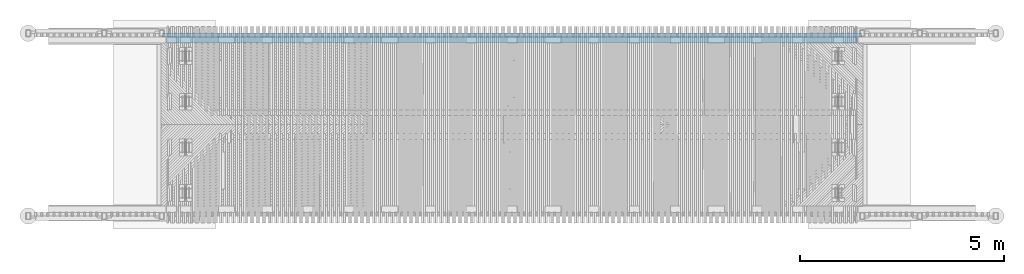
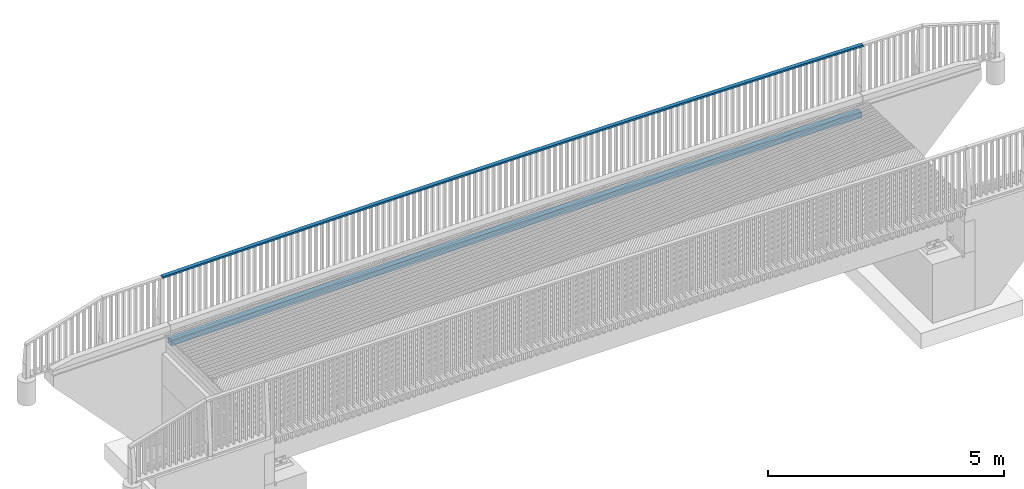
# One storey, part 35 of 47: 2 beams.
"""IFC2X3 building model written with IfcOpenShell, lengths in millimetres."""

from ifc_helpers import new_model, si_unit, frame, origin_with_axes, place, context, subcontext, project, spatial, faceted_brep, material, type_object, element, save


model = new_model("IFC2X3")

# Units and contexts
model_context = context("Model", 3, precision=1e-05, world=origin_with_axes())
body_context = subcontext(model_context, "Body", "Model", "MODEL_VIEW")
ifc_project = project(units=[si_unit("LENGTHUNIT", "METRE", prefix="MILLI"), si_unit("AREAUNIT", "SQUARE_METRE"), si_unit("VOLUMEUNIT", "CUBIC_METRE"), si_unit("MASSUNIT", "GRAM", prefix="KILO"), si_unit("TIMEUNIT", "SECOND"), si_unit("PLANEANGLEUNIT", "RADIAN"), si_unit("SOLIDANGLEUNIT", "STERADIAN"), si_unit("THERMODYNAMICTEMPERATUREUNIT", "DEGREE_CELSIUS"), si_unit("LUMINOUSINTENSITYUNIT", "LUMEN")], contexts=[model_context])

# Site, building, storey
site_placement = place(None, origin_with_axes())
site = spatial("IfcSite", under=ifc_project, at=site_placement, Name="Undefined", CompositionType="ELEMENT")
building_placement = place(site_placement, origin_with_axes())
building = spatial("IfcBuilding", under=site, at=building_placement, Name="Undefined", CompositionType="ELEMENT")
storey_placement = place(building_placement, origin_with_axes())
storey = spatial("IfcBuildingStorey", under=building, at=storey_placement, Name="Undefined", CompositionType="ELEMENT", Elevation=0.0)

# Beams
ifc_material = material(Name="TIMBER/Timber_Undefined")
beam_type_1 = type_object("IfcBeamType", Name="95*45", PredefinedType="NOTDEFINED")
beam_1_placement = place(storey_placement, frame((-2047.37477855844, 64562.487908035, 4507.13687854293), z_axis=(0.0, 1.0, 0.0), x_axis=(1.0, 0.0, 0.0)))
element("IfcBeam", 1, at=beam_1_placement, inside=storey, type_object=beam_type_1, material=ifc_material, Name="YLÄJOHDE", ObjectType="95*45", context=body_context, shape_type="Brep", body=[
    faceted_brep([(1607.15024844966, -47.1338297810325, -47.5), (1607.15024844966, -47.1338297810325, 47.5), (1470.37516889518, -45.1743421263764, 47.5), (1470.37516889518, -45.1743421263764, -47.5), (1607.77987788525, -2.13823481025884, 47.5), (1607.77987788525, -2.13823481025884, -47.5), (1470.37516880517, -0.169726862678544, -47.5), (1470.37516880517, -0.169726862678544, 47.5), (2009.64096669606, -7.62762641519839, -47.5), (2009.04131779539, -52.6236309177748, -47.5), (2009.04131779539, -52.6236309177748, 47.5), (2009.64096669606, -7.62762641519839, 47.5), (2411.50562386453, -12.849258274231, 47.5), (2411.50562386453, -12.849258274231, -47.5), (2410.935955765, -57.845652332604, -47.5), (2410.935955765, -57.845652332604, 47.5), (2812.83398393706, -62.7998917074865, 47.5), (2813.37367098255, -17.8031280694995, 47.5), (2813.37367098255, -17.8031280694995, -47.5), (2812.83398393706, -62.7998917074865, -47.5), (3214.73522388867, -67.4863468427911, -47.5), (3214.73522388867, -67.4863468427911, 47.5), (3215.24492964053, -22.4892336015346, 47.5), (3215.24492964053, -22.4892336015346, -47.5), (3617.11922142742, -26.9075727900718, -47.5), (3616.63949719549, -71.9050156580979, -47.5), (3616.63949719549, -71.9050156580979, 47.5), (3617.11922142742, -26.9075727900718, 47.5), (4018.99636793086, -31.0581436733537, 47.5), (4018.99636793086, -31.0581436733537, -47.5), (4018.54662543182, -76.0558961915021, -47.5), (4018.54662543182, -76.0558961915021, 47.5), (4420.45643017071, -79.9389866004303, 47.5), (4420.87619073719, -34.9409444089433, 47.5), (4420.87619073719, -34.9409444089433, -47.5), (4420.45643017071, -79.9389866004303, -47.5), (4822.36873298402, -83.5542851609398, -47.5), (4822.36873298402, -83.5542851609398, 47.5), (4822.75851143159, -38.555973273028, 47.5), (4822.75851143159, -38.555973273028, -47.5), (5224.64315159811, -41.903228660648, -47.5), (5224.2833554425, -86.9017902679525, -47.5), (5224.2833554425, -86.9017902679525, 47.5), (5224.64315159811, -41.903228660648, 47.5), (5626.52993281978, -44.982709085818, 47.5), (5626.52993281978, -44.982709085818, -47.5), (5626.20011911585, -89.9815004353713, -47.5), (5626.20011911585, -89.9815004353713, 47.5), (6028.11884557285, -92.7934142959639, 47.5), (6028.41867667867, -47.7944131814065, 47.5), (6028.41867667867, -47.7944131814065, -47.5), (6028.11884557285, -92.7934142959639, -47.5), (6430.0393563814, -95.3375306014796, -47.5), (6430.0393563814, -95.3375306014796, 47.5), (6430.309204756, -50.3383396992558, 47.5), (6430.309204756, -50.3383396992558, -47.5), (6832.20133863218, -52.6144875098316, -47.5), (6831.96147310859, -97.6138482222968, -47.5), (6831.96147310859, -97.6138482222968, 47.5), (6832.20133863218, -52.6144875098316, 47.5), (7234.09489988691, -54.6228556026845, 47.5), (7234.09489988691, -54.6228556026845, -47.5), (7233.88501732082, -99.6223661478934, -47.5), (7233.88501732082, -99.6223661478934, 47.5), (7635.80981058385, -101.363083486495, 47.5), (7635.98971009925, -56.3634430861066, 47.5), (7635.98971009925, -56.3634430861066, -47.5), (7635.80981058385, -101.363083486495, -47.5), (8037.73567446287, -102.835999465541, -47.5), (8037.73567446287, -102.835999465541, 47.5), (8037.88559084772, -57.8362491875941, 47.5), (8037.88559084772, -57.8362491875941, -47.5), (8439.78236371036, -59.0412732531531, -47.5), (8439.66243052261, -104.041113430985, -47.5), (8439.66243052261, -104.041113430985, 47.5), (8439.78236371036, -59.0412732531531, 47.5), (8841.67985026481, -59.9785147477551, 47.5), (8841.67985026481, -59.9785147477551, -47.5), (8841.5899003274, -104.978424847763, -47.5), (8841.5899003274, -104.978424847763, 47.5), (9243.51790544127, -105.647933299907, 47.5), (9243.57787208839, -60.6479732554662, 47.5), (9243.57787208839, -60.6479732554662, -47.5), (9243.51790544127, -105.647933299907, -47.5), (9645.44626742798, -106.049638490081, -47.5), (9645.44626742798, -106.049638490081, 47.5), (9645.47625075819, -61.0496484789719, 47.5), (9645.47625075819, -61.0496484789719, -47.5), (10047.3748078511, -61.1835402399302, -47.5), (10047.3748078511, -106.18354023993, -47.5), (10047.3748078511, -106.18354023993, 47.5), (10047.3748078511, -61.1835402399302, 47.5), (10449.2733649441, -61.0496484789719, 47.5), (10449.2733649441, -61.0496484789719, -47.5), (10449.3033482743, -106.049638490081, -47.5), (10449.3033482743, -106.049638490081, 47.5), (10851.231710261, -105.647933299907, 47.5), (10851.1717436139, -60.6479732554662, 47.5), (10851.1717436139, -60.6479732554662, -47.5), (10851.231710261, -105.647933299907, -47.5), (11253.1597153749, -104.978424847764, -47.5), (11253.1597153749, -104.978424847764, 47.5), (11253.0697654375, -59.978514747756, 47.5), (11253.0697654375, -59.978514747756, -47.5), (11654.9672519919, -59.0412732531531, -47.5), (11655.0871851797, -104.041113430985, -47.5), (11655.0871851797, -104.041113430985, 47.5), (11654.9672519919, -59.0412732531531, 47.5), (12056.8640248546, -57.8362491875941, 47.5), (12056.8640248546, -57.8362491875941, -47.5), (12057.0139412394, -102.835999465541, -47.5), (12057.0139412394, -102.835999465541, 47.5), (12458.9398051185, -101.363083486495, 47.5), (12458.7599056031, -56.3634430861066, 47.5), (12458.7599056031, -56.3634430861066, -47.5), (12458.9398051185, -101.363083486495, -47.5), (12860.8645983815, -99.6223661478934, -47.5), (12860.8645983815, -99.6223661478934, 47.5), (12860.6547158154, -54.6228556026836, 47.5), (12860.6547158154, -54.6228556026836, -47.5), (13262.5482770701, -52.6144875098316, -47.5), (13262.7881425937, -97.6138482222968, -47.5), (13262.7881425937, -97.6138482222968, 47.5), (13262.5482770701, -52.6144875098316, 47.5), (13664.4404109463, -50.3383396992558, 47.5), (13664.4404109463, -50.3383396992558, -47.5), (13664.7102593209, -95.3375306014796, -47.5), (13664.7102593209, -95.3375306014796, 47.5), (14066.6307701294, -92.7934142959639, 47.5), (14066.3309390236, -47.7944131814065, 47.5), (14066.3309390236, -47.7944131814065, -47.5), (14066.6307701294, -92.7934142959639, -47.5), (14468.5494965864, -89.9815004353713, -47.5), (14468.5494965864, -89.9815004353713, 47.5), (14468.2196828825, -44.9827090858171, 47.5), (14468.2196828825, -44.9827090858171, -47.5), (14870.1064641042, -41.903228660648, -47.5), (14870.4662602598, -86.9017902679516, -47.5), (14870.4662602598, -86.9017902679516, 47.5), (14870.1064641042, -41.903228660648, 47.5), (15271.9911042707, -38.555973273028, 47.5), (15271.9911042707, -38.555973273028, -47.5), (15272.3808827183, -83.5542851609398, -47.5), (15272.3808827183, -83.5542851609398, 47.5), (15674.2931855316, -79.9389866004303, 47.5), (15673.8734249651, -34.9409444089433, 47.5), (15673.8734249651, -34.9409444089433, -47.5), (15674.2931855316, -79.9389866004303, -47.5), (16076.2029902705, -76.0558961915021, -47.5), (16076.2029902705, -76.0558961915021, 47.5), (16075.7532477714, -31.0581436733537, 47.5), (16075.7532477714, -31.0581436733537, -47.5), (16477.6303942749, -26.9075727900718, -47.5), (16478.1101185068, -71.9050156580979, -47.5), (16478.1101185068, -71.9050156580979, 47.5), (16477.6303942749, -26.9075727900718, 47.5), (16879.5046860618, -22.4892336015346, 47.5), (16879.5046860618, -22.4892336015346, -47.5), (16880.0143918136, -67.4863468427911, -47.5), (16880.0143918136, -67.4863468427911, 47.5), (17281.9156317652, -62.7998917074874, 47.5), (17281.3759447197, -17.8031280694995, 47.5), (17281.3759447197, -17.8031280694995, -47.5), (17281.9156317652, -62.7998917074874, -47.5), (17683.8136599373, -57.845652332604, -47.5), (17683.8136599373, -57.845652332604, 47.5), (17683.2439918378, -12.849258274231, 47.5), (17683.2439918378, -12.849258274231, -47.5), (18085.1086490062, -7.62762641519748, -47.5), (18085.7082979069, -52.6236309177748, -47.5), (18085.7082979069, -52.6236309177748, 47.5), (18085.1086490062, -7.62762641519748, 47.5), (18486.969737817, -2.13823481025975, 47.5), (18486.969737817, -2.13823481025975, -47.5), (18487.5993672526, -47.1338297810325, -47.5), (18487.5993672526, -47.1338297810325, 47.5), (18624.3743884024, -45.1743429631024, 47.5), (18624.3743883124, -0.169727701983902, 47.5), (18624.3743883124, -0.169727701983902, -47.5), (18624.3743884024, -45.1743429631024, -47.5)], [[[0, 1, 2, 3]], [[4, 5, 6, 7]], [[1, 4, 7, 2]], [[6, 3, 2, 7]], [[5, 0, 3, 6]], [[0, 5, 8, 9]], [[1, 0, 9, 10]], [[4, 1, 10, 11]], [[5, 4, 11, 8]], [[8, 11, 12, 13]], [[9, 8, 13, 14]], [[10, 9, 14, 15]], [[11, 10, 15, 12]], [[12, 15, 16, 17]], [[13, 12, 17, 18]], [[14, 13, 18, 19]], [[15, 14, 19, 16]], [[16, 19, 20, 21]], [[17, 16, 21, 22]], [[18, 17, 22, 23]], [[19, 18, 23, 20]], [[20, 23, 24, 25]], [[21, 20, 25, 26]], [[22, 21, 26, 27]], [[23, 22, 27, 24]], [[24, 27, 28, 29]], [[25, 24, 29, 30]], [[26, 25, 30, 31]], [[27, 26, 31, 28]], [[28, 31, 32, 33]], [[29, 28, 33, 34]], [[30, 29, 34, 35]], [[31, 30, 35, 32]], [[32, 35, 36, 37]], [[33, 32, 37, 38]], [[34, 33, 38, 39]], [[35, 34, 39, 36]], [[36, 39, 40, 41]], [[37, 36, 41, 42]], [[38, 37, 42, 43]], [[39, 38, 43, 40]], [[40, 43, 44, 45]], [[41, 40, 45, 46]], [[42, 41, 46, 47]], [[43, 42, 47, 44]], [[44, 47, 48, 49]], [[45, 44, 49, 50]], [[46, 45, 50, 51]], [[47, 46, 51, 48]], [[48, 51, 52, 53]], [[49, 48, 53, 54]], [[50, 49, 54, 55]], [[51, 50, 55, 52]], [[52, 55, 56, 57]], [[53, 52, 57, 58]], [[54, 53, 58, 59]], [[55, 54, 59, 56]], [[56, 59, 60, 61]], [[57, 56, 61, 62]], [[58, 57, 62, 63]], [[59, 58, 63, 60]], [[60, 63, 64, 65]], [[61, 60, 65, 66]], [[62, 61, 66, 67]], [[63, 62, 67, 64]], [[64, 67, 68, 69]], [[65, 64, 69, 70]], [[66, 65, 70, 71]], [[67, 66, 71, 68]], [[68, 71, 72, 73]], [[69, 68, 73, 74]], [[70, 69, 74, 75]], [[71, 70, 75, 72]], [[72, 75, 76, 77]], [[73, 72, 77, 78]], [[74, 73, 78, 79]], [[75, 74, 79, 76]], [[76, 79, 80, 81]], [[77, 76, 81, 82]], [[78, 77, 82, 83]], [[79, 78, 83, 80]], [[80, 83, 84, 85]], [[81, 80, 85, 86]], [[82, 81, 86, 87]], [[83, 82, 87, 84]], [[84, 87, 88, 89]], [[85, 84, 89, 90]], [[86, 85, 90, 91]], [[87, 86, 91, 88]], [[88, 91, 92, 93]], [[89, 88, 93, 94]], [[90, 89, 94, 95]], [[91, 90, 95, 92]], [[92, 95, 96, 97]], [[93, 92, 97, 98]], [[94, 93, 98, 99]], [[95, 94, 99, 96]], [[96, 99, 100, 101]], [[97, 96, 101, 102]], [[98, 97, 102, 103]], [[99, 98, 103, 100]], [[100, 103, 104, 105]], [[101, 100, 105, 106]], [[102, 101, 106, 107]], [[103, 102, 107, 104]], [[104, 107, 108, 109]], [[105, 104, 109, 110]], [[106, 105, 110, 111]], [[107, 106, 111, 108]], [[108, 111, 112, 113]], [[109, 108, 113, 114]], [[110, 109, 114, 115]], [[111, 110, 115, 112]], [[112, 115, 116, 117]], [[113, 112, 117, 118]], [[114, 113, 118, 119]], [[115, 114, 119, 116]], [[116, 119, 120, 121]], [[117, 116, 121, 122]], [[118, 117, 122, 123]], [[119, 118, 123, 120]], [[120, 123, 124, 125]], [[121, 120, 125, 126]], [[122, 121, 126, 127]], [[123, 122, 127, 124]], [[124, 127, 128, 129]], [[125, 124, 129, 130]], [[126, 125, 130, 131]], [[127, 126, 131, 128]], [[128, 131, 132, 133]], [[129, 128, 133, 134]], [[130, 129, 134, 135]], [[131, 130, 135, 132]], [[132, 135, 136, 137]], [[133, 132, 137, 138]], [[134, 133, 138, 139]], [[135, 134, 139, 136]], [[136, 139, 140, 141]], [[137, 136, 141, 142]], [[138, 137, 142, 143]], [[139, 138, 143, 140]], [[140, 143, 144, 145]], [[141, 140, 145, 146]], [[142, 141, 146, 147]], [[143, 142, 147, 144]], [[144, 147, 148, 149]], [[145, 144, 149, 150]], [[146, 145, 150, 151]], [[147, 146, 151, 148]], [[148, 151, 152, 153]], [[149, 148, 153, 154]], [[150, 149, 154, 155]], [[151, 150, 155, 152]], [[152, 155, 156, 157]], [[153, 152, 157, 158]], [[154, 153, 158, 159]], [[155, 154, 159, 156]], [[156, 159, 160, 161]], [[157, 156, 161, 162]], [[158, 157, 162, 163]], [[159, 158, 163, 160]], [[160, 163, 164, 165]], [[161, 160, 165, 166]], [[162, 161, 166, 167]], [[163, 162, 167, 164]], [[164, 167, 168, 169]], [[165, 164, 169, 170]], [[166, 165, 170, 171]], [[167, 166, 171, 168]], [[168, 171, 172, 173]], [[169, 168, 173, 174]], [[170, 169, 174, 175]], [[171, 170, 175, 172]], [[172, 175, 176, 177]], [[173, 172, 177, 178]], [[174, 173, 178, 179]], [[175, 174, 179, 176]], [[178, 177, 176, 179]]]),
])
beam_type_2 = type_object("IfcBeamType", Name="150*150", PredefinedType="NOTDEFINED")
beam_2_placement = place(storey_placement, frame((-101.638019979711, 64439.9950922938, 2888.62561019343), z_axis=(0.0, 1.0, 0.0), x_axis=(1.0, 0.0, 0.0)))
element("IfcBeam", 2, at=beam_2_placement, inside=storey, type_object=beam_type_2, material=ifc_material, Name="PALKKI", ObjectType="150*150", context=body_context, shape_type="Brep", body=[
    faceted_brep([(-322.982711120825, 79.4552193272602, -75.0), (-325.088810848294, -70.5299944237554, -75.0), (-347.67957067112, -70.2066726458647, -75.0), (-348.53030407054, 79.8208596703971, -75.0), (-325.088810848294, -70.5299944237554, 75.0), (-347.67957067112, -70.2066726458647, 75.0), (-322.982711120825, 79.4552193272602, 75.0), (-348.53030407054, 79.8208596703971, 75.0), (1.01255045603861, 74.9931646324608, 75.0), (1.01255045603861, 74.9931646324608, -75.0), (-1.01255045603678, -74.9931646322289, -75.0), (-1.01255045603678, -74.9931646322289, 75.0), (323.066072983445, -79.2813189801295, 75.0), (325.010174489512, 70.7060820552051, 75.0), (325.010174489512, 70.7060820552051, -75.0), (323.066072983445, -79.2813189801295, -75.0), (647.146964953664, -83.3944562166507, -75.0), (647.146964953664, -83.3944562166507, 75.0), (649.010066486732, 66.5939728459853, 75.0), (649.010066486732, 66.5939728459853, -75.0), (973.012131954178, 62.6568382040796, -75.0), (971.230030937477, -87.3325751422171, -75.0), (971.230030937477, -87.3325751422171, 75.0), (973.012131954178, 62.6568382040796, 75.0), (1297.01627639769, 58.8946792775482, 75.0), (1297.01627639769, 58.8946792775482, -75.0), (1295.3151764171, -91.0956746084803, -75.0), (1295.3151764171, -91.0956746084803, 75.0), (1619.40230687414, -94.6837535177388, 75.0), (1621.0224053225, 55.3074971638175, 75.0), (1621.0224053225, 55.3074971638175, -75.0), (1619.40230687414, -94.6837535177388, -75.0), (1943.49132778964, -98.096810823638, -75.0), (1943.49132778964, -98.096810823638, 75.0), (1945.03042423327, 51.8952929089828, 75.0), (1945.03042423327, 51.8952929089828, -75.0), (2269.04023863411, 48.6580675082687, -75.0), (2267.58214464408, -101.334845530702, -75.0), (2267.58214464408, -101.334845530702, 75.0), (2269.04023863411, 48.6580675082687, 75.0), (2593.05175402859, 45.5958219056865, 75.0), (2593.05175402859, 45.5958219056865, -75.0), (2591.67466291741, -104.397856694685, -75.0), (2591.67466291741, -104.397856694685, 75.0), (2915.7687880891, -107.285843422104, 75.0), (2917.06487591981, 42.7085569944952, 75.0), (2917.06487591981, 42.7085569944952, -75.0), (2915.7687880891, -107.285843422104, -75.0), (3239.86442563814, -109.998804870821, -75.0), (3239.86442563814, -109.998804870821, 75.0), (3241.07950981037, 39.9962736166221, 75.0), (3241.07950981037, 39.9962736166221, -75.0), (3565.09556120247, 37.4589725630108, -75.0), (3563.96148104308, -112.536740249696, -75.0), (3563.96148104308, -112.536740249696, 75.0), (3565.09556120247, 37.4589725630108, 75.0), (3889.11293559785, 35.0966545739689, 75.0), (3889.11293559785, 35.0966545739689, -75.0), (3888.05985978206, -114.899648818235, -75.0), (3888.05985978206, -114.899648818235, 75.0), (4212.15946733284, -117.087529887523, 75.0), (4213.1315384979, 32.9093203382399, 75.0), (4213.1315384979, 32.9093203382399, -75.0), (4212.15946733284, -117.087529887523, -75.0), (4536.2602091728, -119.100382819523, -75.0), (4536.2602091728, -119.100382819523, 75.0), (4537.15127540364, 30.8969704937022, 75.0), (4537.15127540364, 30.8969704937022, -75.0), (4861.17205181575, 29.0596056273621, -75.0), (4860.36199077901, -120.938207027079, -75.0), (4860.36199077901, -120.938207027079, 75.0), (4861.17205181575, 29.0596056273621, 75.0), (5185.19377323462, 27.3972262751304, 75.0), (5185.19377323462, 27.3972262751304, -75.0), (5184.46471762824, -122.601001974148, -75.0), (5184.46471762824, -122.601001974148, 75.0), (5508.56829519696, -124.088767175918, 75.0), (5509.21634516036, 25.9098329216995, 75.0), (5509.21634516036, 25.9098329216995, -75.0), (5508.56829519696, -124.088767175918, -75.0), (5832.67262896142, -125.401502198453, -75.0), (5832.67262896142, -125.401502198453, 75.0), (5833.23967309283, 24.5974260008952, 75.0), (5833.23967309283, 24.5974260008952, -75.0), (6157.26366253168, 23.4600058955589, -75.0), (6156.77762439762, -126.539206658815, -75.0), (6156.77762439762, -126.539206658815, 75.0), (6157.26366253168, 23.4600058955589, 75.0), (6481.28821897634, 22.4975729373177, 75.0), (6481.28821897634, 22.4975729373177, -75.0), (6480.88318698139, -127.501880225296, -75.0), (6480.88318698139, -127.501880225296, 75.0), (6804.9892221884, -128.289522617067, 75.0), (6805.3132479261, 21.7101274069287, 75.0), (6805.3132479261, 21.7101274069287, -75.0), (6804.9892221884, -128.289522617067, -75.0), (7129.09563549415, -128.902133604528, -75.0), (7129.09563549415, -128.902133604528, 75.0), (7129.33865488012, 21.0976695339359, 75.0), (7129.33865488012, 21.0976695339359, -75.0), (7453.36434533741, 20.6601994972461, -75.0), (7453.20233237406, -129.339713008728, -75.0), (7453.20233237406, -129.339713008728, 75.0), (7453.36434533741, 20.6601994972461, 75.0), (7777.39022479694, 20.3977174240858, 75.0), (7777.39022479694, 20.3977174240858, -75.0), (7777.30921830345, -129.602260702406, -75.0), (7777.30921830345, -129.602260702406, 75.0), (8101.4161987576, -129.689776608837, 75.0), (8101.4161987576, 20.3102233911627, 75.0), (8101.4161987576, 20.3102233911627, -75.0), (8101.4161987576, -129.689776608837, -75.0), (8425.52317921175, -129.602260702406, -75.0), (8425.52317921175, -129.602260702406, 75.0), (8425.44217271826, 20.3977174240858, 75.0), (8425.44217271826, 20.3977174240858, -75.0), (8749.46805217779, 20.6601994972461, -75.0), (8749.63006514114, -129.339713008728, -75.0), (8749.63006514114, -129.339713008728, 75.0), (8749.46805217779, 20.6601994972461, 75.0), (9073.49374263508, 21.0976695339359, 75.0), (9073.49374263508, 21.0976695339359, -75.0), (9073.73676202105, -128.902133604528, -75.0), (9073.73676202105, -128.902133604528, 75.0), (9397.8431753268, -128.289522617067, 75.0), (9397.5191495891, 21.7101274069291, 75.0), (9397.5191495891, 21.7101274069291, -75.0), (9397.8431753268, -128.289522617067, -75.0), (9721.94921053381, -127.501880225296, -75.0), (9721.94921053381, -127.501880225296, 75.0), (9721.54417853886, 22.4975729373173, 75.0), (9721.54417853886, 22.4975729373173, -75.0), (10045.5687349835, 23.4600058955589, -75.0), (10046.0547731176, -126.539206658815, -75.0), (10046.0547731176, -126.539206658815, 75.0), (10045.5687349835, 23.4600058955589, 75.0), (10369.5927244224, 24.5974260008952, 75.0), (10369.5927244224, 24.5974260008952, -75.0), (10370.1597685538, -125.401502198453, -75.0), (10370.1597685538, -125.401502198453, 75.0), (10694.2641023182, -124.088767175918, 75.0), (10693.6160523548, 25.9098329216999, 75.0), (10693.6160523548, 25.9098329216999, -75.0), (10694.2641023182, -124.088767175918, -75.0), (11018.367679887, -122.601001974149, -75.0), (11018.367679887, -122.601001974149, 75.0), (11017.6386242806, 27.3972262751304, 75.0), (11017.6386242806, 27.3972262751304, -75.0), (11341.6603456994, 29.0596056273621, -75.0), (11342.4704067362, -120.938207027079, -75.0), (11342.4704067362, -120.938207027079, 75.0), (11341.6603456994, 29.0596056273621, 75.0), (11665.6811221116, 30.8969704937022, 75.0), (11665.6811221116, 30.8969704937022, -75.0), (11666.5721883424, -119.100382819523, -75.0), (11666.5721883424, -119.100382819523, 75.0), (11990.6729301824, -117.087529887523, 75.0), (11989.7008590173, 32.9093203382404, 75.0), (11989.7008590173, 32.9093203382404, -75.0), (11990.6729301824, -117.087529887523, -75.0), (12314.7725377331, -114.899648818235, -75.0), (12314.7725377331, -114.899648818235, 75.0), (12313.7194619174, 35.0966545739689, 75.0), (12313.7194619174, 35.0966545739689, -75.0), (12637.7368363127, 37.4589725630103, -75.0), (12638.8709164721, -112.536740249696, -75.0), (12638.8709164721, -112.536740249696, 75.0), (12637.7368363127, 37.4589725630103, 75.0), (12961.7528877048, 39.9962736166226, 75.0), (12961.7528877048, 39.9962736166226, -75.0), (12962.9679718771, -109.998804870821, -75.0), (12962.9679718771, -109.998804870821, 75.0), (13287.0636094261, -107.285843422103, 75.0), (13285.7675215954, 42.7085569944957, 75.0), (13285.7675215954, 42.7085569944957, -75.0), (13287.0636094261, -107.285843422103, -75.0), (13611.1577345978, -104.397856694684, -75.0), (13611.1577345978, -104.397856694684, 75.0), (13609.7806434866, 45.595821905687, 75.0), (13609.7806434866, 45.595821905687, -75.0), (13933.7921588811, 48.6580675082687, -75.0), (13935.2502528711, -101.334845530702, -75.0), (13935.2502528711, -101.334845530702, 75.0), (13933.7921588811, 48.6580675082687, 75.0), (14257.8019732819, 51.8952929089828, 75.0), (14257.8019732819, 51.8952929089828, -75.0), (14259.3410697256, -98.096810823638, -75.0), (14259.3410697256, -98.096810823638, 75.0), (14583.4300906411, -94.6837535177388, 75.0), (14581.8099921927, 55.307497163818, 75.0), (14581.8099921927, 55.307497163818, -75.0), (14583.4300906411, -94.6837535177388, -75.0), (14907.5172210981, -91.0956746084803, -75.0), (14907.5172210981, -91.0956746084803, 75.0), (14905.8161211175, 58.8946792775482, 75.0), (14905.8161211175, 58.8946792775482, -75.0), (15229.820265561, 62.6568382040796, -75.0), (15231.6023665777, -87.3325751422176, -75.0), (15231.6023665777, -87.3325751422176, 75.0), (15229.820265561, 62.6568382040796, 75.0), (15553.8223310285, 66.5939728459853, 75.0), (15553.8223310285, 66.5939728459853, -75.0), (15555.6854325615, -83.3944562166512, -75.0), (15555.6854325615, -83.3944562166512, 75.0), (15879.7663245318, -79.2813189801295, 75.0), (15877.8222230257, 70.7060820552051, 75.0), (15877.8222230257, 70.7060820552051, -75.0), (15879.7663245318, -79.2813189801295, -75.0), (16203.8449479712, -74.9931646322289, -75.0), (16203.8449479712, -74.9931646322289, 75.0), (16201.8198470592, 74.9931646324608, 75.0), (16201.8198470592, 74.9931646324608, -75.0), (16513.3537972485, 79.2803664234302, -75.0), (16515.4567816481, -70.7048910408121, -75.0), (16515.4567816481, -70.7048910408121, 75.0), (16513.3537972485, 79.2803664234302, 75.0), (16551.7859798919, 79.8292149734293, 75.0), (16551.7859798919, 79.8292149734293, -75.0), (16550.9349976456, -70.1982279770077, -75.0), (16550.9349976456, -70.1982279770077, 75.0)], [[[0, 1, 2, 3]], [[1, 4, 5, 2]], [[4, 6, 7, 5]], [[3, 2, 5, 7]], [[6, 0, 3, 7]], [[0, 6, 8, 9]], [[1, 0, 9, 10]], [[4, 1, 10, 11]], [[6, 4, 11, 8]], [[8, 11, 12, 13]], [[9, 8, 13, 14]], [[10, 9, 14, 15]], [[11, 10, 15, 12]], [[12, 15, 16, 17]], [[13, 12, 17, 18]], [[14, 13, 18, 19]], [[15, 14, 19, 16]], [[16, 19, 20, 21]], [[17, 16, 21, 22]], [[18, 17, 22, 23]], [[19, 18, 23, 20]], [[20, 23, 24, 25]], [[21, 20, 25, 26]], [[22, 21, 26, 27]], [[23, 22, 27, 24]], [[24, 27, 28, 29]], [[25, 24, 29, 30]], [[26, 25, 30, 31]], [[27, 26, 31, 28]], [[28, 31, 32, 33]], [[29, 28, 33, 34]], [[30, 29, 34, 35]], [[31, 30, 35, 32]], [[32, 35, 36, 37]], [[33, 32, 37, 38]], [[34, 33, 38, 39]], [[35, 34, 39, 36]], [[36, 39, 40, 41]], [[37, 36, 41, 42]], [[38, 37, 42, 43]], [[39, 38, 43, 40]], [[40, 43, 44, 45]], [[41, 40, 45, 46]], [[42, 41, 46, 47]], [[43, 42, 47, 44]], [[44, 47, 48, 49]], [[45, 44, 49, 50]], [[46, 45, 50, 51]], [[47, 46, 51, 48]], [[48, 51, 52, 53]], [[49, 48, 53, 54]], [[50, 49, 54, 55]], [[51, 50, 55, 52]], [[52, 55, 56, 57]], [[53, 52, 57, 58]], [[54, 53, 58, 59]], [[55, 54, 59, 56]], [[56, 59, 60, 61]], [[57, 56, 61, 62]], [[58, 57, 62, 63]], [[59, 58, 63, 60]], [[60, 63, 64, 65]], [[61, 60, 65, 66]], [[62, 61, 66, 67]], [[63, 62, 67, 64]], [[64, 67, 68, 69]], [[65, 64, 69, 70]], [[66, 65, 70, 71]], [[67, 66, 71, 68]], [[68, 71, 72, 73]], [[69, 68, 73, 74]], [[70, 69, 74, 75]], [[71, 70, 75, 72]], [[72, 75, 76, 77]], [[73, 72, 77, 78]], [[74, 73, 78, 79]], [[75, 74, 79, 76]], [[76, 79, 80, 81]], [[77, 76, 81, 82]], [[78, 77, 82, 83]], [[79, 78, 83, 80]], [[80, 83, 84, 85]], [[81, 80, 85, 86]], [[82, 81, 86, 87]], [[83, 82, 87, 84]], [[84, 87, 88, 89]], [[85, 84, 89, 90]], [[86, 85, 90, 91]], [[87, 86, 91, 88]], [[88, 91, 92, 93]], [[89, 88, 93, 94]], [[90, 89, 94, 95]], [[91, 90, 95, 92]], [[92, 95, 96, 97]], [[93, 92, 97, 98]], [[94, 93, 98, 99]], [[95, 94, 99, 96]], [[96, 99, 100, 101]], [[97, 96, 101, 102]], [[98, 97, 102, 103]], [[99, 98, 103, 100]], [[100, 103, 104, 105]], [[101, 100, 105, 106]], [[102, 101, 106, 107]], [[103, 102, 107, 104]], [[104, 107, 108, 109]], [[105, 104, 109, 110]], [[106, 105, 110, 111]], [[107, 106, 111, 108]], [[108, 111, 112, 113]], [[109, 108, 113, 114]], [[110, 109, 114, 115]], [[111, 110, 115, 112]], [[112, 115, 116, 117]], [[113, 112, 117, 118]], [[114, 113, 118, 119]], [[115, 114, 119, 116]], [[116, 119, 120, 121]], [[117, 116, 121, 122]], [[118, 117, 122, 123]], [[119, 118, 123, 120]], [[120, 123, 124, 125]], [[121, 120, 125, 126]], [[122, 121, 126, 127]], [[123, 122, 127, 124]], [[124, 127, 128, 129]], [[125, 124, 129, 130]], [[126, 125, 130, 131]], [[127, 126, 131, 128]], [[128, 131, 132, 133]], [[129, 128, 133, 134]], [[130, 129, 134, 135]], [[131, 130, 135, 132]], [[132, 135, 136, 137]], [[133, 132, 137, 138]], [[134, 133, 138, 139]], [[135, 134, 139, 136]], [[136, 139, 140, 141]], [[137, 136, 141, 142]], [[138, 137, 142, 143]], [[139, 138, 143, 140]], [[140, 143, 144, 145]], [[141, 140, 145, 146]], [[142, 141, 146, 147]], [[143, 142, 147, 144]], [[144, 147, 148, 149]], [[145, 144, 149, 150]], [[146, 145, 150, 151]], [[147, 146, 151, 148]], [[148, 151, 152, 153]], [[149, 148, 153, 154]], [[150, 149, 154, 155]], [[151, 150, 155, 152]], [[152, 155, 156, 157]], [[153, 152, 157, 158]], [[154, 153, 158, 159]], [[155, 154, 159, 156]], [[156, 159, 160, 161]], [[157, 156, 161, 162]], [[158, 157, 162, 163]], [[159, 158, 163, 160]], [[160, 163, 164, 165]], [[161, 160, 165, 166]], [[162, 161, 166, 167]], [[163, 162, 167, 164]], [[164, 167, 168, 169]], [[165, 164, 169, 170]], [[166, 165, 170, 171]], [[167, 166, 171, 168]], [[168, 171, 172, 173]], [[169, 168, 173, 174]], [[170, 169, 174, 175]], [[171, 170, 175, 172]], [[172, 175, 176, 177]], [[173, 172, 177, 178]], [[174, 173, 178, 179]], [[175, 174, 179, 176]], [[176, 179, 180, 181]], [[177, 176, 181, 182]], [[178, 177, 182, 183]], [[179, 178, 183, 180]], [[180, 183, 184, 185]], [[181, 180, 185, 186]], [[182, 181, 186, 187]], [[183, 182, 187, 184]], [[184, 187, 188, 189]], [[185, 184, 189, 190]], [[186, 185, 190, 191]], [[187, 186, 191, 188]], [[188, 191, 192, 193]], [[189, 188, 193, 194]], [[190, 189, 194, 195]], [[191, 190, 195, 192]], [[192, 195, 196, 197]], [[193, 192, 197, 198]], [[194, 193, 198, 199]], [[195, 194, 199, 196]], [[196, 199, 200, 201]], [[197, 196, 201, 202]], [[198, 197, 202, 203]], [[199, 198, 203, 200]], [[200, 203, 204, 205]], [[201, 200, 205, 206]], [[202, 201, 206, 207]], [[203, 202, 207, 204]], [[204, 207, 208, 209]], [[205, 204, 209, 210]], [[206, 205, 210, 211]], [[207, 206, 211, 208]], [[208, 211, 212, 213]], [[209, 208, 213, 214]], [[210, 209, 214, 215]], [[211, 210, 215, 212]], [[212, 215, 216, 217]], [[213, 212, 217, 218]], [[214, 213, 218, 219]], [[215, 214, 219, 216]], [[218, 217, 216, 219]]]),
])

save(model, "model.ifc")
